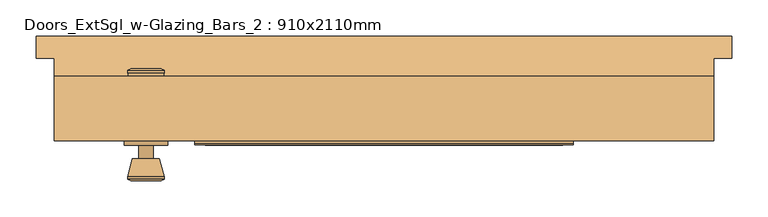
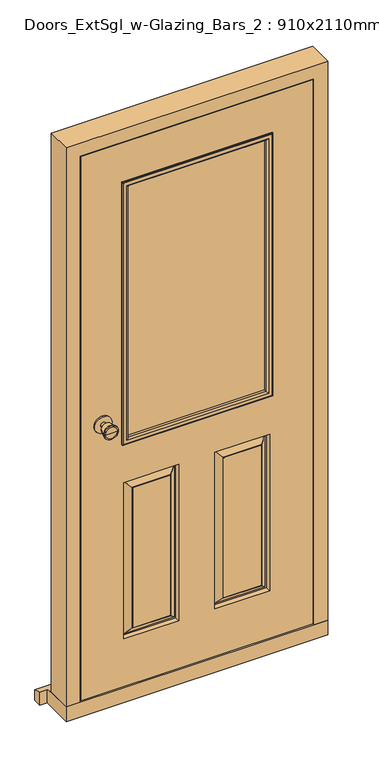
"""IFC4 building model written with IfcOpenShell, lengths in millimetres: door geometry, Doors_ExtSgl_w-Glazing_Bars_2 : 910x2110mm."""

from ifc_helpers import new_model, si_unit, point, frame, frame_2d, origin, place, context, project, spatial, polyline, circle_curve, ellipse_curve, trimmed, segment, composite_curve, outline, extrude, faceted_brep, source, transform, mapped, element, save
from ifc_brep_helpers import plane_surface, cylinder_surface, revolved_surface, advanced_brep


def doors_extsgl_w_glazing_bars_2_910x2110mm_256fbd00(model_context):
    return source(origin(), model_context, "Body", "SolidModel", [
        advanced_brep(
        [(-328.5, 10.0, 1050.0), (-318.5, 10.0, 1050.0), (-338.5, 10.0, 1050.0), (-308.0241324, -39.0, 1050.0), (-328.5, -39.0, 1050.0), (-348.9758676, -39.0, 1050.0), (-303.5, -37.1721319, 1050.0), (-353.5, -37.1721319, 1050.0), (-303.5, -33.7084537, 1050.0), (-353.5, -33.7084537, 1050.0), (-309.863764, -9.0, 1050.0), (-347.136236, -9.0, 1050.0), (-318.5, -9.0, 1050.0), (-338.5, -9.0, 1050.0)],
        [
            (0, 1),
            (1, 2, circle_curve(frame((-328.5, 10.0, 1050.0), z_axis=(0.0, 1.0, 0.0), x_axis=(-1.0, 0.0, 0.0)), 10.0)),
            (2, 0),
            (2, 1, circle_curve(frame((-328.5, 10.0, 1050.0), z_axis=(0.0, 1.0, 0.0), x_axis=(-1.0, 0.0, 0.0)), 10.0)),
            (3, 4),
            (4, 5),
            (5, 3, circle_curve(frame((-328.5, -39.0, 1050.0), z_axis=(0.0, -1.0, 0.0), x_axis=(-1.0, 0.0, 0.0)), 20.4758676)),
            (3, 5, circle_curve(frame((-328.5, -39.0, 1050.0), z_axis=(0.0, -1.0, 0.0), x_axis=(-1.0, 0.0, 0.0)), 20.4758676)),
            (6, 3),
            (5, 7),
            (7, 6, circle_curve(frame((-328.5, -37.1721319, 1050.0), z_axis=(0.0, -1.0, 0.0), x_axis=(-1.0, 0.0, 0.0)), 25.0)),
            (6, 7, circle_curve(frame((-328.5, -37.1721319, 1050.0), z_axis=(0.0, -1.0, 0.0), x_axis=(-1.0, 0.0, 0.0)), 25.0)),
            (8, 6),
            (7, 9),
            (9, 8, circle_curve(frame((-328.5, -33.7084537, 1050.0), z_axis=(0.0, -1.0, 0.0), x_axis=(-1.0, 0.0, 0.0)), 25.0)),
            (8, 9, circle_curve(frame((-328.5, -33.7084537, 1050.0), z_axis=(0.0, -1.0, 0.0), x_axis=(-1.0, 0.0, 0.0)), 25.0)),
            (10, 8),
            (9, 11),
            (11, 10, circle_curve(frame((-328.5, -9.0, 1050.0), z_axis=(0.0, -1.0, 0.0), x_axis=(-1.0, 0.0, 0.0)), 18.636236)),
            (10, 11, circle_curve(frame((-328.5, -9.0, 1050.0), z_axis=(0.0, -1.0, 0.0), x_axis=(-1.0, 0.0, 0.0)), 18.636236)),
            (12, 10),
            (11, 13),
            (13, 12, circle_curve(frame((-328.5, -9.0, 1050.0), z_axis=(0.0, -1.0, 0.0), x_axis=(-1.0, 0.0, 0.0)), 10.0)),
            (12, 13, circle_curve(frame((-328.5, -9.0, 1050.0), z_axis=(0.0, -1.0, 0.0), x_axis=(-1.0, 0.0, 0.0)), 10.0)),
            (1, 12),
            (13, 2),
        ],
        [
            plane_surface(frame((-328.5, 10.0, 1050.0), z_axis=(0.0, 1.0, 0.0), x_axis=(-1.0, 0.0, 0.0))),
            plane_surface(frame((-328.5, -39.0, 1050.0), z_axis=(0.0, -1.0, 0.0), x_axis=(-1.0, 0.0, 0.0))),
            revolved_surface(polyline([(-348.9758676, -39.0, 1050.0), (-353.5, -37.1721319, 1050.0)]), (-328.5, 10.0, 1050.0), (0.0, 1.0, 0.0)),
            cylinder_surface(frame((-328.5, 10.0, 1050.0), z_axis=(0.0, 1.0, 0.0), x_axis=(-1.0, 0.0, 0.0)), 25.0),
            revolved_surface(polyline([(-353.5, -33.7084537, 1050.0), (-347.136236, -9.0, 1050.0)]), (-328.5, 10.0, 1050.0), (0.0, 1.0, 0.0)),
            plane_surface(frame((-328.5, -9.0, 1050.0), z_axis=(0.0, 1.0, 0.0), x_axis=(-1.0, 0.0, 0.0))),
            cylinder_surface(frame((-328.5, 10.0, 1050.0), z_axis=(0.0, 1.0, 0.0), x_axis=(-1.0, 0.0, 0.0)), 10.0),
        ],
        [
            (0, [[1, 2, 3]]),
            (0, [[-3, 4, -1]]),
            (1, [[5, 6, 7]]),
            (1, [[-6, -5, 8]]),
            (2, [[9, -7, 10, 11]]),
            (2, [[-10, -8, -9, 12]]),
            (3, [[13, -11, 14, 15]]),
            (3, [[-14, -12, -13, 16]]),
            (4, [[17, -15, 18, 19]]),
            (4, [[-18, -16, -17, 20]]),
            (5, [[21, -19, 22, 23]]),
            (5, [[-22, -20, -21, 24]]),
            (6, [[25, -23, 26, -2]]),
            (6, [[-26, -24, -25, -4]]),
        ],
    ),
        extrude(outline(composite_curve([segment(trimmed(circle_curve(frame_2d((1050.0, -328.5)), 30.0), [point((1050.0, -358.5))], [point((1050.0, -298.5))], False, "CARTESIAN"), True, "CONTINUOUS"), segment(trimmed(circle_curve(frame_2d((1050.0, -328.5)), 30.0), [point((1050.0, -298.5))], [point((1050.0, -358.5))], False, "CARTESIAN"), True, "CONTINUOUS")], self_intersect=False)), frame((0.0, 10.0, 0.0), z_axis=(0.0, 1.0, 0.0), x_axis=(0.0, 0.0, 1.0)), (0.0, 0.0, 1.0), 6.0),
        advanced_brep(
        [(-328.5, 66.0, 1050.0), (-338.5, 66.0, 1050.0), (-318.5, 66.0, 1050.0), (-308.0241324, 115.0, 1050.0), (-348.9758676, 115.0, 1050.0), (-328.5, 115.0, 1050.0), (-303.5, 113.1721319, 1050.0), (-353.5, 113.1721319, 1050.0), (-303.5, 109.7084537, 1050.0), (-353.5, 109.7084537, 1050.0), (-309.863764, 85.0, 1050.0), (-347.136236, 85.0, 1050.0), (-318.5, 85.0, 1050.0), (-338.5, 85.0, 1050.0)],
        [
            (0, 1),
            (1, 2, circle_curve(frame((-328.5, 66.0, 1050.0), z_axis=(0.0, -1.0, 0.0), x_axis=(-1.0, 0.0, 0.0)), 10.0)),
            (2, 0),
            (2, 1, circle_curve(frame((-328.5, 66.0, 1050.0), z_axis=(0.0, -1.0, 0.0), x_axis=(-1.0, 0.0, 0.0)), 10.0)),
            (3, 4, circle_curve(frame((-328.5, 115.0, 1050.0), z_axis=(0.0, 1.0, 0.0), x_axis=(-1.0, 0.0, 0.0)), 20.4758676)),
            (4, 5),
            (5, 3),
            (4, 3, circle_curve(frame((-328.5, 115.0, 1050.0), z_axis=(0.0, 1.0, 0.0), x_axis=(-1.0, 0.0, 0.0)), 20.4758676)),
            (6, 7, circle_curve(frame((-328.5, 113.1721319, 1050.0), z_axis=(0.0, 1.0, 0.0), x_axis=(-1.0, 0.0, 0.0)), 25.0)),
            (7, 4),
            (3, 6),
            (7, 6, circle_curve(frame((-328.5, 113.1721319, 1050.0), z_axis=(0.0, 1.0, 0.0), x_axis=(-1.0, 0.0, 0.0)), 25.0)),
            (8, 9, circle_curve(frame((-328.5, 109.7084537, 1050.0), z_axis=(0.0, 1.0, 0.0), x_axis=(-1.0, 0.0, 0.0)), 25.0)),
            (9, 7),
            (6, 8),
            (9, 8, circle_curve(frame((-328.5, 109.7084537, 1050.0), z_axis=(0.0, 1.0, 0.0), x_axis=(-1.0, 0.0, 0.0)), 25.0)),
            (10, 11, circle_curve(frame((-328.5, 85.0, 1050.0), z_axis=(0.0, 1.0, 0.0), x_axis=(-1.0, 0.0, 0.0)), 18.636236)),
            (11, 9),
            (8, 10),
            (11, 10, circle_curve(frame((-328.5, 85.0, 1050.0), z_axis=(0.0, 1.0, 0.0), x_axis=(-1.0, 0.0, 0.0)), 18.636236)),
            (12, 13, circle_curve(frame((-328.5, 85.0, 1050.0), z_axis=(0.0, 1.0, 0.0), x_axis=(-1.0, 0.0, 0.0)), 10.0)),
            (13, 11),
            (10, 12),
            (13, 12, circle_curve(frame((-328.5, 85.0, 1050.0), z_axis=(0.0, 1.0, 0.0), x_axis=(-1.0, 0.0, 0.0)), 10.0)),
            (1, 13),
            (12, 2),
        ],
        [
            plane_surface(frame((-328.5, 66.0, 1050.0), z_axis=(0.0, -1.0, 0.0), x_axis=(-1.0, 0.0, 0.0))),
            plane_surface(frame((-328.5, 115.0, 1050.0), z_axis=(0.0, 1.0, 0.0), x_axis=(-1.0, 0.0, 0.0))),
            revolved_surface(polyline([(-348.9758676, 115.0, 1050.0), (-353.5, 113.1721319, 1050.0)]), (-328.5, 66.0, 1050.0), (0.0, -1.0, 0.0)),
            cylinder_surface(frame((-328.5, 66.0, 1050.0), z_axis=(0.0, -1.0, 0.0), x_axis=(-1.0, 0.0, 0.0)), 25.0),
            revolved_surface(polyline([(-353.5, 109.7084537, 1050.0), (-347.136236, 85.0, 1050.0)]), (-328.5, 66.0, 1050.0), (0.0, -1.0, 0.0)),
            plane_surface(frame((-328.5, 85.0, 1050.0), z_axis=(0.0, -1.0, 0.0), x_axis=(-1.0, 0.0, 0.0))),
            cylinder_surface(frame((-328.5, 66.0, 1050.0), z_axis=(0.0, -1.0, 0.0), x_axis=(-1.0, 0.0, 0.0)), 10.0),
        ],
        [
            (0, [[1, 2, 3]]),
            (0, [[-3, 4, -1]]),
            (1, [[5, 6, 7]]),
            (1, [[8, -7, -6]]),
            (2, [[9, 10, -5, 11]]),
            (2, [[12, -11, -8, -10]]),
            (3, [[13, 14, -9, 15]]),
            (3, [[16, -15, -12, -14]]),
            (4, [[17, 18, -13, 19]]),
            (4, [[20, -19, -16, -18]]),
            (5, [[21, 22, -17, 23]]),
            (5, [[24, -23, -20, -22]]),
            (6, [[-2, 25, -21, 26]]),
            (6, [[-4, -26, -24, -25]]),
        ],
    ),
        extrude(outline(composite_curve([segment(trimmed(circle_curve(frame_2d((1050.0, -328.5)), 30.0), [point((1050.0, -358.5))], [point((1050.0, -298.5))], False, "CARTESIAN"), True, "CONTINUOUS"), segment(trimmed(circle_curve(frame_2d((1050.0, -328.5)), 30.0), [point((1050.0, -298.5))], [point((1050.0, -358.5))], False, "CARTESIAN"), True, "CONTINUOUS")], self_intersect=False)), frame((0.0, 60.0, 0.0), z_axis=(0.0, 1.0, 0.0), x_axis=(0.0, 0.0, 1.0)), (0.0, 0.0, 1.0), 6.0),
        faceted_brep([(384.5, 105.0, 54.5), (455.0, 105.0, 54.5), (455.0, 16.0, 54.5), (406.5, 16.0, 54.5), (406.5, 63.0, 54.5), (384.5, 63.0, 54.5), (384.5, 105.0, 2039.5), (-384.5, 105.0, 2039.5), (-384.5, 105.0, 54.5), (-455.0, 105.0, 54.5), (-455.0, 105.0, 2110.0), (455.0, 105.0, 2110.0), (455.0, 16.0, 2110.0), (-455.0, 16.0, 2110.0), (-455.0, 16.0, 54.5), (-406.5, 16.0, 54.5), (-406.5, 16.0, 2061.5), (406.5, 16.0, 2061.5), (406.5, 63.0, 2061.5), (-406.5, 63.0, 2061.5), (-406.5, 63.0, 54.5), (-384.5, 63.0, 54.5), (-384.5, 63.0, 2039.5), (384.5, 63.0, 2039.5)], [[[0, 1, 2, 3, 4, 5]], [[1, 0, 6, 7, 8, 9, 10, 11]], [[2, 1, 11, 12]], [[3, 2, 12, 13, 14, 15, 16, 17]], [[4, 3, 17, 18]], [[5, 4, 18, 19, 20, 21, 22, 23]], [[0, 5, 23, 6]], [[8, 7, 22, 21]], [[9, 8, 21, 20, 15, 14]], [[10, 9, 14, 13]], [[16, 15, 20, 19]], [[11, 10, 13, 12]], [[17, 16, 19, 18]], [[7, 6, 23, 22]]]),
        extrude(outline(polyline([(-253.5, 50.0), (253.5, 50.0), (253.5, 26.0), (-253.5, 26.0), (-253.5, 50.0)])), frame((0.0, 0.0, 958.5), z_axis=(0.0, 0.0, 1.0), x_axis=(1.0, 0.0, 0.0)), (0.0, 0.0, 1.0), 950.0),
        faceted_brep([(480.0, 160.0, 0.0), (480.0, 160.0, 38.5947221), (480.0, 130.0, 47.2703282), (480.0, 130.0, 0.0), (-480.0, 160.0, 38.5947221), (-480.0, 160.0, 0.0), (-480.0, 130.0, 0.0), (-480.0, 130.0, 47.2703282), (455.0, 130.0, 0.0), (455.0, 16.0, 0.0), (-455.0, 16.0, 0.0), (-455.0, 130.0, 0.0), (-455.0, 130.0, 47.2703282), (-455.0, 105.0, 54.5), (455.0, 105.0, 54.5), (455.0, 130.0, 47.2703282), (-455.0, 16.0, 54.5), (455.0, 16.0, 54.5)], [[[0, 1, 2, 3]], [[4, 5, 6, 7]], [[5, 0, 3, 8, 9, 10, 11, 6]], [[1, 0, 5, 4]], [[1, 4, 7, 12, 13, 14, 15, 2]], [[13, 16, 17, 14]], [[16, 10, 9, 17]], [[12, 11, 10, 16, 13]], [[11, 12, 7, 6]], [[8, 15, 14, 17, 9]], [[15, 8, 3, 2]]]),
        faceted_brep([(403.5, 16.0, 58.5), (403.5, 16.0, 2058.5), (-404.4250294, 16.0, 2058.5), (-404.4250294, 16.0, 58.5), (-253.5, 16.0, 958.5), (-253.5, 16.0, 1908.5), (253.5, 16.0, 1908.5), (253.5, 16.0, 958.5), (-62.5, 16.0, 808.5), (-62.5, 16.0, 233.5), (-253.5, 16.0, 233.5), (-253.5, 16.0, 808.5), (253.5, 16.0, 808.5), (253.5, 16.0, 233.5), (62.5, 16.0, 233.5), (62.5, 16.0, 808.5), (-92.5, 16.0, 263.5), (-92.5, 16.0, 778.5), (-223.5, 16.0, 778.5), (-223.5, 16.0, 263.5), (223.5, 16.0, 263.5), (223.5, 16.0, 778.5), (92.5, 16.0, 778.5), (92.5, 16.0, 263.5), (403.5, 60.0, 58.5), (-404.4250294, 60.0, 58.5), (-404.4250294, 60.0, 2058.5), (403.5, 60.0, 2058.5), (-253.5, 60.0, 958.5), (253.5, 60.0, 958.5), (253.5, 60.0, 1908.5), (-253.5, 60.0, 1908.5), (62.5, 60.0, 808.5), (62.5, 60.0, 233.5), (253.5, 60.0, 233.5), (253.5, 60.0, 808.5), (-253.5, 60.0, 808.5), (-253.5, 60.0, 233.5), (-62.5, 60.0, 233.5), (-62.5, 60.0, 808.5), (92.5, 60.0, 263.5), (92.5, 60.0, 778.5), (223.5, 60.0, 778.5), (223.5, 60.0, 263.5), (-223.5, 60.0, 263.5), (-223.5, 60.0, 778.5), (-92.5, 60.0, 778.5), (-92.5, 60.0, 263.5), (65.5, 45.0, 805.5), (65.5, 45.0, 236.5), (90.5, 59.0, 780.5), (90.5, 59.0, 261.5), (70.5, 45.0, 241.5), (70.5, 45.0, 800.5), (92.5, 59.0, 263.5), (92.5, 59.0, 778.5), (250.5, 45.0, 236.5), (225.5, 59.0, 261.5), (245.5, 45.0, 241.5), (223.5, 59.0, 263.5), (250.5, 45.0, 805.5), (225.5, 59.0, 780.5), (245.5, 45.0, 800.5), (223.5, 59.0, 778.5), (-250.5, 45.0, 805.5), (-250.5, 45.0, 236.5), (-225.5, 59.0, 780.5), (-225.5, 59.0, 261.5), (-245.5, 45.0, 241.5), (-245.5, 45.0, 800.5), (-223.5, 59.0, 263.5), (-223.5, 59.0, 778.5), (-65.5, 45.0, 236.5), (-90.5, 59.0, 261.5), (-70.5, 45.0, 241.5), (-92.5, 59.0, 263.5), (-65.5, 45.0, 805.5), (-90.5, 59.0, 780.5), (-70.5, 45.0, 800.5), (-92.5, 59.0, 778.5), (-92.5, 17.0, 263.5), (-92.5, 17.0, 778.5), (-70.5, 31.0, 241.5), (-70.5, 31.0, 800.5), (-90.5, 17.0, 780.5), (-90.5, 17.0, 261.5), (-65.5, 31.0, 805.5), (-65.5, 31.0, 236.5), (-223.5, 17.0, 778.5), (-245.5, 31.0, 800.5), (-225.5, 17.0, 780.5), (-250.5, 31.0, 805.5), (-223.5, 17.0, 263.5), (-245.5, 31.0, 241.5), (-225.5, 17.0, 261.5), (-250.5, 31.0, 236.5), (250.5, 31.0, 805.5), (250.5, 31.0, 236.5), (225.5, 17.0, 780.5), (225.5, 17.0, 261.5), (245.5, 31.0, 241.5), (245.5, 31.0, 800.5), (223.5, 17.0, 263.5), (223.5, 17.0, 778.5), (65.5, 31.0, 236.5), (90.5, 17.0, 261.5), (70.5, 31.0, 241.5), (92.5, 17.0, 263.5), (65.5, 31.0, 805.5), (90.5, 17.0, 780.5), (70.5, 31.0, 800.5), (92.5, 17.0, 778.5)], [[[0, 1, 2, 3], [4, 5, 6, 7], [8, 9, 10, 11], [12, 13, 14, 15]], [[16, 17, 18, 19]], [[20, 21, 22, 23]], [[24, 25, 26, 27], [28, 29, 30, 31], [32, 33, 34, 35], [36, 37, 38, 39]], [[40, 41, 42, 43]], [[44, 45, 46, 47]], [[1, 0, 24, 27]], [[2, 1, 27, 26]], [[3, 2, 26, 25]], [[0, 3, 25, 24]], [[5, 4, 28, 31]], [[6, 5, 31, 30]], [[7, 6, 30, 29]], [[4, 7, 29, 28]], [[48, 49, 33, 32]], [[50, 51, 52, 53]], [[40, 54, 55, 41]], [[33, 49, 56, 34]], [[52, 51, 57, 58]], [[54, 40, 43, 59]], [[34, 56, 60, 35]], [[58, 57, 61, 62]], [[59, 43, 42, 63]], [[48, 32, 35, 60]], [[49, 48, 60, 56], [53, 52, 58, 62]], [[50, 53, 62, 61]], [[51, 50, 61, 57], [55, 54, 59, 63]], [[41, 55, 63, 42]], [[64, 65, 37, 36]], [[66, 67, 68, 69]], [[44, 70, 71, 45]], [[37, 65, 72, 38]], [[68, 67, 73, 74]], [[70, 44, 47, 75]], [[38, 72, 76, 39]], [[74, 73, 77, 78]], [[75, 47, 46, 79]], [[64, 36, 39, 76]], [[65, 64, 76, 72], [69, 68, 74, 78]], [[66, 69, 78, 77]], [[67, 66, 77, 73], [71, 70, 75, 79]], [[45, 71, 79, 46]], [[80, 81, 17, 16]], [[82, 83, 84, 85]], [[8, 86, 87, 9]], [[17, 81, 88, 18]], [[84, 83, 89, 90]], [[86, 8, 11, 91]], [[18, 88, 92, 19]], [[90, 89, 93, 94]], [[91, 11, 10, 95]], [[80, 16, 19, 92]], [[85, 84, 90, 94], [81, 80, 92, 88]], [[82, 85, 94, 93]], [[87, 86, 91, 95], [83, 82, 93, 89]], [[9, 87, 95, 10]], [[96, 97, 13, 12]], [[98, 99, 100, 101]], [[20, 102, 103, 21]], [[13, 97, 104, 14]], [[100, 99, 105, 106]], [[102, 20, 23, 107]], [[14, 104, 108, 15]], [[106, 105, 109, 110]], [[107, 23, 22, 111]], [[96, 12, 15, 108]], [[97, 96, 108, 104], [101, 100, 106, 110]], [[98, 101, 110, 109]], [[99, 98, 109, 105], [103, 102, 107, 111]], [[21, 103, 111, 22]]]),
        advanced_brep(
        [(261.5, 12.0, 950.5), (261.5, 16.0, 950.5), (261.5, 16.0, 1916.5), (261.5, 12.0, 1916.5), (259.5, 10.0, 952.5), (259.5, 10.0, 1914.5), (241.5, 15.0, 970.5), (246.5, 10.0, 965.5), (246.5, 10.0, 1901.5), (241.5, 15.0, 1896.5), (241.5, 26.0, 970.5), (241.5, 26.0, 1896.5), (253.5, 16.0, 958.5), (253.5, 26.0, 958.5), (253.5, 26.0, 1908.5), (253.5, 16.0, 1908.5), (-261.5, 16.0, 1916.5), (-261.5, 12.0, 1916.5), (-259.5, 10.0, 1914.5), (-246.5, 10.0, 1901.5), (-241.5, 15.0, 1896.5), (-241.5, 26.0, 1896.5), (-253.5, 26.0, 1908.5), (-253.5, 16.0, 1908.5), (-261.5, 16.0, 950.5), (-261.5, 12.0, 950.5), (-259.5, 10.0, 952.5), (-246.5, 10.0, 965.5), (-241.5, 15.0, 970.5), (-241.5, 26.0, 970.5), (-253.5, 26.0, 958.5), (-253.5, 16.0, 958.5)],
        [
            (0, 1),
            (1, 2),
            (2, 3),
            (3, 0),
            (4, 0, ellipse_curve(frame((259.5, 12.0, 952.5), z_axis=(0.7071067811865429, 0.0, 0.707106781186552), x_axis=(0.7071067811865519, 0.0, -0.707106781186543)), 2.8284271, 2.0)),
            (3, 5, ellipse_curve(frame((259.5, 12.0, 1914.5), z_axis=(0.7071067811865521, 0.0, -0.7071067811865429), x_axis=(-0.7071067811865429, 0.0, -0.7071067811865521)), 2.8284271, 2.0)),
            (5, 4),
            (6, 7, ellipse_curve(frame((246.5, 15.0, 965.5), z_axis=(0.7071067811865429, 0.0, 0.707106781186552), x_axis=(0.7071067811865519, 0.0, -0.707106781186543)), 7.0710678, 5.0)),
            (7, 8),
            (8, 9, ellipse_curve(frame((246.5, 15.0, 1901.5), z_axis=(0.7071067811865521, 0.0, -0.7071067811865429), x_axis=(-0.7071067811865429, 0.0, -0.7071067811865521)), 7.0710678, 5.0)),
            (9, 6),
            (10, 6),
            (9, 11),
            (11, 10),
            (12, 13),
            (13, 14),
            (14, 15),
            (15, 12),
            (2, 16),
            (16, 17),
            (17, 3),
            (17, 18, ellipse_curve(frame((-259.5, 12.0, 1914.5), z_axis=(0.707106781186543, 0.0, 0.707106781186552), x_axis=(0.707106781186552, 0.0, -0.7071067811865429)), 2.8284271, 2.0)),
            (18, 5),
            (8, 19),
            (19, 20, ellipse_curve(frame((-246.5, 15.0, 1901.5), z_axis=(0.707106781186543, 0.0, 0.707106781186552), x_axis=(0.707106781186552, 0.0, -0.7071067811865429)), 7.0710678, 5.0)),
            (20, 9),
            (20, 21),
            (21, 11),
            (14, 22),
            (22, 23),
            (23, 15),
            (16, 24),
            (24, 25),
            (25, 17),
            (25, 26, ellipse_curve(frame((-259.5, 12.0, 952.5), z_axis=(-0.707106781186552, 0.0, 0.7071067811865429), x_axis=(0.7071067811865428, 0.0, 0.7071067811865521)), 2.8284271, 2.0)),
            (26, 18),
            (19, 27),
            (27, 28, ellipse_curve(frame((-246.5, 15.0, 965.5), z_axis=(-0.707106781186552, 0.0, 0.7071067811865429), x_axis=(0.7071067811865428, 0.0, 0.7071067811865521)), 7.0710678, 5.0)),
            (28, 20),
            (28, 29),
            (29, 21),
            (22, 30),
            (30, 31),
            (31, 23),
            (24, 1),
            (0, 25),
            (4, 26),
            (7, 27),
            (6, 28),
            (10, 29),
            (13, 30),
            (12, 31),
        ],
        [
            plane_surface(frame((261.5, 16.0, 950.5), z_axis=(1.0, 0.0, 0.0), x_axis=(0.0, 0.0, 1.0))),
            cylinder_surface(frame((259.5, 12.0, 958.5), z_axis=(0.0, 0.0, -1.0), x_axis=(1.0, 0.0, 0.0)), 2.0),
            cylinder_surface(frame((246.5, 15.0, 958.5), z_axis=(0.0, 0.0, -1.0), x_axis=(1.0, 0.0, 0.0)), 5.0),
            plane_surface(frame((241.5, 15.0, 970.5), z_axis=(-1.0, 0.0, 0.0), x_axis=(0.0, 0.0, 1.0))),
            plane_surface(frame((253.5, 26.0, 958.5), z_axis=(1.0, 0.0, 0.0), x_axis=(0.0, 0.0, 1.0))),
            plane_surface(frame((261.5, 16.0, 1916.5), z_axis=(0.0, 0.0, 1.0), x_axis=(-1.0, 0.0, 0.0))),
            cylinder_surface(frame((253.5, 12.0, 1914.5), z_axis=(1.0, 0.0, 0.0), x_axis=(0.0, 0.0, 1.0)), 2.0),
            cylinder_surface(frame((253.5, 15.0, 1901.5), z_axis=(1.0, 0.0, 0.0), x_axis=(0.0, 0.0, 1.0)), 5.0),
            plane_surface(frame((241.5, 15.0, 1896.5), z_axis=(0.0, 0.0, -1.0), x_axis=(-1.0, 0.0, 0.0))),
            plane_surface(frame((253.5, 26.0, 1908.5), z_axis=(0.0, 0.0, 1.0), x_axis=(-1.0, 0.0, 0.0))),
            plane_surface(frame((-261.5, 16.0, 1916.5), z_axis=(-1.0, 0.0, 0.0), x_axis=(0.0, 0.0, -1.0))),
            cylinder_surface(frame((-259.5, 12.0, 1908.5), z_axis=(0.0, 0.0, 1.0), x_axis=(-1.0, 0.0, 0.0)), 2.0),
            cylinder_surface(frame((-246.5, 15.0, 1908.5), z_axis=(0.0, 0.0, 1.0), x_axis=(-1.0, 0.0, 0.0)), 5.0),
            plane_surface(frame((-241.5, 15.0, 1896.5), z_axis=(1.0, 0.0, 0.0), x_axis=(0.0, 0.0, -1.0))),
            plane_surface(frame((-253.5, 26.0, 1908.5), z_axis=(-1.0, 0.0, 0.0), x_axis=(0.0, 0.0, -1.0))),
            plane_surface(frame((-261.5, 16.0, 950.5), z_axis=(0.0, 0.0, -1.0), x_axis=(1.0, 0.0, 0.0))),
            cylinder_surface(frame((-253.5, 12.0, 952.5), z_axis=(-1.0, 0.0, 0.0), x_axis=(0.0, 0.0, -1.0)), 2.0),
            plane_surface(frame((-259.5, 10.0, 952.5), z_axis=(0.0, -1.0, 0.0), x_axis=(1.0, 0.0, 0.0))),
            cylinder_surface(frame((-253.5, 15.0, 965.5), z_axis=(-1.0, 0.0, 0.0), x_axis=(0.0, 0.0, -1.0)), 5.0),
            plane_surface(frame((-241.5, 15.0, 970.5), z_axis=(0.0, 0.0, 1.0), x_axis=(1.0, 0.0, 0.0))),
            plane_surface(frame((-241.5, 26.0, 970.5), z_axis=(0.0, 1.0, 0.0), x_axis=(1.0, 0.0, 0.0))),
            plane_surface(frame((-253.5, 26.0, 958.5), z_axis=(0.0, 0.0, -1.0), x_axis=(1.0, 0.0, 0.0))),
            plane_surface(frame((-253.5, 16.0, 958.5), z_axis=(0.0, 1.0, 0.0), x_axis=(1.0, 0.0, 0.0))),
        ],
        [
            (0, [[1, 2, 3, 4]]),
            (1, [[5, -4, 6, 7]]),
            (2, [[8, 9, 10, 11]]),
            (3, [[12, -11, 13, 14]]),
            (4, [[15, 16, 17, 18]]),
            (5, [[-3, 19, 20, 21]]),
            (6, [[-6, -21, 22, 23]]),
            (7, [[-10, 24, 25, 26]]),
            (8, [[-13, -26, 27, 28]]),
            (9, [[-17, 29, 30, 31]]),
            (10, [[-20, 32, 33, 34]]),
            (11, [[-22, -34, 35, 36]]),
            (12, [[-25, 37, 38, 39]]),
            (13, [[-27, -39, 40, 41]]),
            (14, [[-30, 42, 43, 44]]),
            (15, [[-33, 45, -1, 46]]),
            (16, [[-35, -46, -5, 47]]),
            (17, [[-23, -36, -47, -7], [48, -37, -24, -9]]),
            (18, [[-38, -48, -8, 49]]),
            (19, [[-40, -49, -12, 50]]),
            (20, [[51, -42, -29, -16], [-28, -41, -50, -14]]),
            (21, [[-43, -51, -15, 52]]),
            (22, [[-45, -32, -19, -2], [-31, -44, -52, -18]]),
        ],
    ),
        advanced_brep(
        [(-261.5, 64.0, 950.5), (-261.5, 60.0, 950.5), (-261.5, 60.0, 1916.5), (-261.5, 64.0, 1916.5), (-259.5, 66.0, 952.5), (-259.5, 66.0, 1914.5), (-241.5, 61.0, 970.5), (-246.5, 66.0, 965.5), (-246.5, 66.0, 1901.5), (-241.5, 61.0, 1896.5), (-241.5, 50.0, 970.5), (-241.5, 50.0, 1896.5), (-253.5, 60.0, 958.5), (-253.5, 50.0, 958.5), (-253.5, 50.0, 1908.5), (-253.5, 60.0, 1908.5), (261.5, 60.0, 1916.5), (261.5, 64.0, 1916.5), (259.5, 66.0, 1914.5), (246.5, 66.0, 1901.5), (241.5, 61.0, 1896.5), (241.5, 50.0, 1896.5), (253.5, 50.0, 1908.5), (253.5, 60.0, 1908.5), (261.5, 60.0, 950.5), (261.5, 64.0, 950.5), (259.5, 66.0, 952.5), (246.5, 66.0, 965.5), (241.5, 61.0, 970.5), (241.5, 50.0, 970.5), (253.5, 50.0, 958.5), (253.5, 60.0, 958.5)],
        [
            (0, 1),
            (1, 2),
            (2, 3),
            (3, 0),
            (4, 0, ellipse_curve(frame((-259.5, 64.0, 952.5), z_axis=(-0.7071067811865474, 0.0, 0.7071067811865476), x_axis=(-0.7071067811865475, 0.0, -0.7071067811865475)), 2.8284271, 2.0)),
            (3, 5, ellipse_curve(frame((-259.5, 64.0, 1914.5), z_axis=(-0.7071067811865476, 0.0, -0.7071067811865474), x_axis=(0.7071067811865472, 0.0, -0.7071067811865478)), 2.8284271, 2.0)),
            (5, 4),
            (6, 7, ellipse_curve(frame((-246.5, 61.0, 965.5), z_axis=(-0.7071067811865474, 0.0, 0.7071067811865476), x_axis=(-0.7071067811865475, 0.0, -0.7071067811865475)), 7.0710678, 5.0)),
            (7, 8),
            (8, 9, ellipse_curve(frame((-246.5, 61.0, 1901.5), z_axis=(-0.7071067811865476, 0.0, -0.7071067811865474), x_axis=(0.7071067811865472, 0.0, -0.7071067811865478)), 7.0710678, 5.0)),
            (9, 6),
            (10, 6),
            (9, 11),
            (11, 10),
            (12, 13),
            (13, 14),
            (14, 15),
            (15, 12),
            (2, 16),
            (16, 17),
            (17, 3),
            (17, 18, ellipse_curve(frame((259.5, 64.0, 1914.5), z_axis=(-0.7071067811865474, 0.0, 0.7071067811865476), x_axis=(-0.7071067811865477, 0.0, -0.7071067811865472)), 2.8284271, 2.0)),
            (18, 5),
            (8, 19),
            (19, 20, ellipse_curve(frame((246.5, 61.0, 1901.5), z_axis=(-0.7071067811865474, 0.0, 0.7071067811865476), x_axis=(-0.7071067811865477, 0.0, -0.7071067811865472)), 7.0710678, 5.0)),
            (20, 9),
            (20, 21),
            (21, 11),
            (14, 22),
            (22, 23),
            (23, 15),
            (16, 24),
            (24, 25),
            (25, 17),
            (25, 26, ellipse_curve(frame((259.5, 64.0, 952.5), z_axis=(0.7071067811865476, 0.0, 0.7071067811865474), x_axis=(-0.7071067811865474, 0.0, 0.7071067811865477)), 2.8284271, 2.0)),
            (26, 18),
            (19, 27),
            (27, 28, ellipse_curve(frame((246.5, 61.0, 965.5), z_axis=(0.7071067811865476, 0.0, 0.7071067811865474), x_axis=(-0.7071067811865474, 0.0, 0.7071067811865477)), 7.0710678, 5.0)),
            (28, 20),
            (28, 29),
            (29, 21),
            (22, 30),
            (30, 31),
            (31, 23),
            (24, 1),
            (0, 25),
            (4, 26),
            (7, 27),
            (6, 28),
            (10, 29),
            (13, 30),
            (12, 31),
        ],
        [
            plane_surface(frame((-261.5, 60.0, 950.5), z_axis=(-1.0, 0.0, 0.0), x_axis=(0.0, 0.0, 1.0))),
            cylinder_surface(frame((-259.5, 64.0, 958.5), z_axis=(0.0, 0.0, -1.0), x_axis=(-1.0, 0.0, 0.0)), 2.0),
            cylinder_surface(frame((-246.5, 61.0, 958.5), z_axis=(0.0, 0.0, -1.0), x_axis=(-1.0, 0.0, 0.0)), 5.0),
            plane_surface(frame((-241.5, 61.0, 970.5), z_axis=(1.0, 0.0, 0.0), x_axis=(0.0, 0.0, 1.0))),
            plane_surface(frame((-253.5, 50.0, 958.5), z_axis=(-1.0, 0.0, 0.0), x_axis=(0.0, 0.0, 1.0))),
            plane_surface(frame((-261.5, 60.0, 1916.5), z_axis=(0.0, 0.0, 1.0), x_axis=(1.0, 0.0, 0.0))),
            cylinder_surface(frame((-253.5, 64.0, 1914.5), z_axis=(-1.0, 0.0, 0.0), x_axis=(0.0, 0.0, 1.0)), 2.0),
            cylinder_surface(frame((-253.5, 61.0, 1901.5), z_axis=(-1.0, 0.0, 0.0), x_axis=(0.0, 0.0, 1.0)), 5.0),
            plane_surface(frame((-241.5, 61.0, 1896.5), z_axis=(0.0, 0.0, -1.0), x_axis=(1.0, 0.0, 0.0))),
            plane_surface(frame((-253.5, 50.0, 1908.5), z_axis=(0.0, 0.0, 1.0), x_axis=(1.0, 0.0, 0.0))),
            plane_surface(frame((261.5, 60.0, 1916.5), z_axis=(1.0, 0.0, 0.0), x_axis=(0.0, 0.0, -1.0))),
            cylinder_surface(frame((259.5, 64.0, 1908.5), z_axis=(0.0, 0.0, 1.0), x_axis=(1.0, 0.0, 0.0)), 2.0),
            cylinder_surface(frame((246.5, 61.0, 1908.5), z_axis=(0.0, 0.0, 1.0), x_axis=(1.0, 0.0, 0.0)), 5.0),
            plane_surface(frame((241.5, 61.0, 1896.5), z_axis=(-1.0, 0.0, 0.0), x_axis=(0.0, 0.0, -1.0))),
            plane_surface(frame((253.5, 50.0, 1908.5), z_axis=(1.0, 0.0, 0.0), x_axis=(0.0, 0.0, -1.0))),
            plane_surface(frame((261.5, 60.0, 950.5), z_axis=(0.0, 0.0, -1.0), x_axis=(-1.0, 0.0, 0.0))),
            cylinder_surface(frame((253.5, 64.0, 952.5), z_axis=(1.0, 0.0, 0.0), x_axis=(0.0, 0.0, -1.0)), 2.0),
            plane_surface(frame((259.5, 66.0, 952.5), z_axis=(0.0, 1.0, 0.0), x_axis=(-1.0, 0.0, 0.0))),
            cylinder_surface(frame((253.5, 61.0, 965.5), z_axis=(1.0, 0.0, 0.0), x_axis=(0.0, 0.0, -1.0)), 5.0),
            plane_surface(frame((241.5, 61.0, 970.5), z_axis=(0.0, 0.0, 1.0), x_axis=(-1.0, 0.0, 0.0))),
            plane_surface(frame((241.5, 50.0, 970.5), z_axis=(0.0, -1.0, 0.0), x_axis=(-1.0, 0.0, 0.0))),
            plane_surface(frame((253.5, 50.0, 958.5), z_axis=(0.0, 0.0, -1.0), x_axis=(-1.0, 0.0, 0.0))),
            plane_surface(frame((253.5, 60.0, 958.5), z_axis=(0.0, -1.0, 0.0), x_axis=(-1.0, 0.0, 0.0))),
        ],
        [
            (0, [[1, 2, 3, 4]]),
            (1, [[5, -4, 6, 7]]),
            (2, [[8, 9, 10, 11]]),
            (3, [[12, -11, 13, 14]]),
            (4, [[15, 16, 17, 18]]),
            (5, [[-3, 19, 20, 21]]),
            (6, [[-6, -21, 22, 23]]),
            (7, [[-10, 24, 25, 26]]),
            (8, [[-13, -26, 27, 28]]),
            (9, [[-17, 29, 30, 31]]),
            (10, [[-20, 32, 33, 34]]),
            (11, [[-22, -34, 35, 36]]),
            (12, [[-25, 37, 38, 39]]),
            (13, [[-27, -39, 40, 41]]),
            (14, [[-30, 42, 43, 44]]),
            (15, [[-33, 45, -1, 46]]),
            (16, [[-35, -46, -5, 47]]),
            (17, [[-23, -36, -47, -7], [48, -37, -24, -9]]),
            (18, [[-38, -48, -8, 49]]),
            (19, [[-40, -49, -12, 50]]),
            (20, [[51, -42, -29, -16], [-28, -41, -50, -14]]),
            (21, [[-43, -51, -15, 52]]),
            (22, [[-45, -32, -19, -2], [-31, -44, -52, -18]]),
        ],
    ),
        extrude(outline(polyline([(958.5, -10.0), (958.5, 10.0), (1423.5, 10.0), (1423.5, 253.5), (1443.5, 253.5), (1443.5, 10.0), (1908.5, 10.0), (1908.5, -10.0), (1443.5, -10.0), (1443.5, -253.5), (1423.5, -253.5), (1423.5, -10.0), (958.5, -10.0)])), frame((0.0, 34.0, 0.0), z_axis=(0.0, 1.0, 0.0), x_axis=(0.0, 0.0, 1.0)), (0.0, 0.0, 1.0), 8.0),
    ])


if __name__ == "__main__":
    model = new_model("IFC4")
    model_context = context("Model", 3, world=origin())
    ifc_project = project(units=[si_unit("LENGTHUNIT", "METRE", prefix="MILLI")], contexts=[model_context])
    site = spatial("IfcSite", under=ifc_project)
    building = spatial("IfcBuilding", under=site)
    placement = place(None, origin())
    doors_extsgl_w_glazing_bars_2_910x2110mm_shape = doors_extsgl_w_glazing_bars_2_910x2110mm_256fbd00(model_context)
    element("IfcDoor", 1, ObjectType="Doors_ExtSgl_w-Glazing_Bars_2 : 910x2110mm", at=placement, inside=building, context=model_context, shape_type="MappedRepresentation", body=[
        mapped(doors_extsgl_w_glazing_bars_2_910x2110mm_shape, transform((0.0, 0.0, 0.0), x_axis=(1.0, 0.0, 0.0), y_axis=(0.0, 1.0, 0.0), z_axis=(0.0, 0.0, 1.0))),
    ])
    save(model, "model.ifc")
